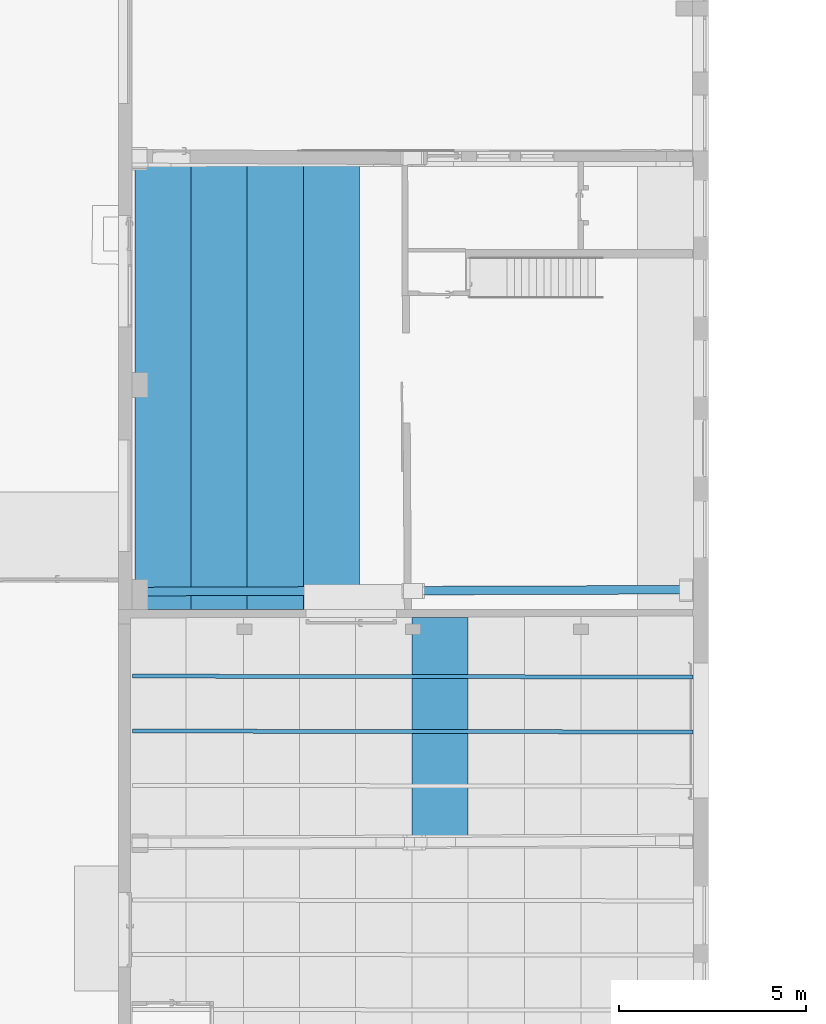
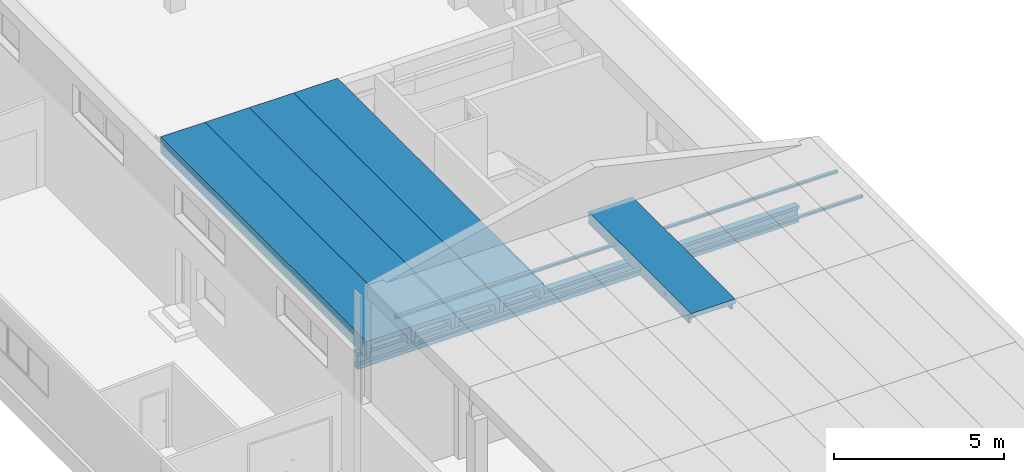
# One storey, part 55 of 301: 8 beams.
"""IFC2X3 building model written with IfcOpenShell, lengths in millimetres."""

from ifc_helpers import new_model, entity, si_unit, converted_unit, derived_unit, money_unit, direction, frame, origin_with_axes, place, context, subcontext, project, spatial, faceted_brep, material, type_object, element, save


model = new_model("IFC2X3")

# Units and contexts
model_context = context("Model", 3, precision=0.01, world=origin_with_axes(), true_north=direction((0.0, 1.0)))
body_context = subcontext(model_context, "Body", "Model", "MODEL_VIEW")
ifc_project = project(units=[si_unit("LENGTHUNIT", "METRE", prefix="MILLI"), si_unit("AREAUNIT", "SQUARE_METRE"), si_unit("VOLUMEUNIT", "CUBIC_METRE"), converted_unit("PLANEANGLEUNIT", "DEGREE", entity("IfcPlaneAngleMeasure", 0.0174532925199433), si_unit("PLANEANGLEUNIT", "RADIAN"), dimensions=[0, 0, 0, 0, 0, 0, 0]), money_unit("EUR"), converted_unit("TIMEUNIT", "Year", entity("IfcTimeMeasure", 31557600.0), si_unit("TIMEUNIT", "SECOND"), dimensions=[0, 0, 1, 0, 0, 0, 0]), si_unit("MASSUNIT", "GRAM", prefix="KILO"), si_unit("THERMODYNAMICTEMPERATUREUNIT", "DEGREE_CELSIUS"), si_unit("LUMINOUSINTENSITYUNIT", "LUMEN"), si_unit("ENERGYUNIT", "JOULE", prefix="MEGA"), derived_unit("THERMALCONDUCTANCEUNIT", [(si_unit("POWERUNIT", "WATT"), 1), (si_unit("LENGTHUNIT", "METRE"), -1), (si_unit("THERMODYNAMICTEMPERATUREUNIT", "KELVIN"), -1)]), derived_unit("SPECIFICHEATCAPACITYUNIT", [(si_unit("ENERGYUNIT", "JOULE"), 1), (si_unit("MASSUNIT", "GRAM", prefix="KILO"), -1), (si_unit("THERMODYNAMICTEMPERATUREUNIT", "KELVIN"), -1)]), derived_unit("MASSDENSITYUNIT", [(si_unit("MASSUNIT", "GRAM", prefix="KILO"), 1), (si_unit("VOLUMEUNIT", "CUBIC_METRE"), -1)])], contexts=[model_context])

# Site, building, storey
site_placement = place(None, frame((0.0, 0.0, 8650.0), z_axis=(0.0, 0.0, 1.0), x_axis=(1.0, 0.0, 0.0)))
site = spatial("IfcSite", under=ifc_project, at=site_placement, Name="43301:001:0844", CompositionType="ELEMENT")
building_placement = place(site_placement, origin_with_axes())
building = spatial("IfcBuilding", under=site, at=building_placement, Name="Kuressaare Ametikooli tuulikute mehaanikute õppekorpus", CompositionType="ELEMENT")
storey_placement = place(building_placement, origin_with_axes())
storey = spatial("IfcBuildingStorey", under=building, at=storey_placement, Name="1.korrus", CompositionType="ELEMENT", Elevation=0.0)

# Beams
ifc_material_1 = material(Name="GENEERILINE - KONSTRUKTRIOON")
beam_type_1 = type_object("IfcBeamType", Name="Precast Double Tee 6 1500 x 575", PredefinedType="NOTDEFINED")
beam_1_placement = place(storey_placement, frame((89081.586835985, 74407.22557386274, 4910.0), z_axis=(0.0, 0.0, 1.0), x_axis=(-1.0, 0.0, 0.0)))
element("IfcBeam", 1, at=beam_1_placement, inside=storey, type_object=beam_type_1, material=ifc_material_1, context=body_context, shape_type="Brep", body=[
    faceted_brep([(-750.0, 0.0, -575.0000000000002), (-750.0, 12088.88165257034, -575.0000000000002), (-640.1488631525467, 12088.88165257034, -575.0000000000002), (-640.1488631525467, 0.0, -575.0000000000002), (-750.0, 0.0, 0.0), (-750.0, 12088.88165257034, 0.0), (750.0, 12088.88165257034, 0.0), (750.0, 12088.88165257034, -575.0000000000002), (633.4880933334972, 12088.88165257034, -575.0000000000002), (586.6738948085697, 12088.88165257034, -220.7859401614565), (574.4732175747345, 12088.88165257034, -198.1213013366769), (557.4586532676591, 12088.88165257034, -178.8068772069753), (536.5135530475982, 12088.88165257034, -163.8454215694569), (512.7253310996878, 12088.88165257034, -154.013693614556), (487.3290089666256, 12088.88165257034, -149.822130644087), (-498.145265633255, 12088.88165257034, -149.8234995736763), (-523.1912441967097, 12088.88165257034, -154.8052653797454), (-546.6267368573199, 12088.88165257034, -164.9490672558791), (-567.4009225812, 12088.88165257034, -179.80006857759), (-584.58231033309, 12088.88165257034, -198.692367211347), (-597.4005060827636, 12088.88165257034, -220.7788538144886), (-597.4005060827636, 0.0, -220.7788538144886), (-584.58231033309, 0.0, -198.692367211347), (-567.4009225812, 0.0, -179.80006857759), (-546.6267368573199, 0.0, -164.9490672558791), (-523.1912441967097, 0.0, -154.8052653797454), (-498.145265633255, 0.0, -149.8234995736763), (487.3290089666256, 0.0, -149.822130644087), (512.7253310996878, 0.0, -154.013693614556), (536.5135530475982, 0.0, -163.8454215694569), (557.4586532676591, 0.0, -178.8068772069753), (574.4732175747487, 0.0, -198.1213013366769), (586.6738948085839, 0.0, -220.7859401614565), (633.4880933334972, 0.0, -575.0000000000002), (750.0, 0.0, -575.0000000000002), (750.0, 0.0, 0.0)], [[[0, 1, 2, 3]], [[4, 5, 1, 0]], [[2, 1, 5, 6, 7, 8, 9, 10, 11, 12, 13, 14, 15, 16, 17, 18, 19, 20]], [[3, 2, 20, 21]], [[4, 0, 3, 21, 22, 23, 24, 25, 26, 27, 28, 29, 30, 31, 32, 33, 34, 35]], [[35, 6, 5, 4]], [[34, 7, 6, 35]], [[33, 8, 7, 34]], [[32, 9, 8, 33]], [[31, 10, 9, 32]], [[30, 11, 10, 31]], [[29, 12, 11, 30]], [[28, 13, 12, 29]], [[27, 14, 13, 28]], [[26, 15, 14, 27]], [[25, 16, 15, 26]], [[24, 17, 16, 25]], [[23, 18, 17, 24]], [[22, 19, 18, 23]], [[21, 20, 19, 22]]]),
])
beam_2_placement = place(storey_placement, frame((90581.586835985, 74407.22557386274, 4910.0), z_axis=(0.0, 0.0, 1.0), x_axis=(-1.0, 0.0, 0.0)))
element("IfcBeam", 2, at=beam_2_placement, inside=storey, type_object=beam_type_1, material=ifc_material_1, context=body_context, shape_type="Brep", body=[
    faceted_brep([(-750.0, 0.0, -575.0000000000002), (-750.0, 12088.88165257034, -575.0000000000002), (-640.1488631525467, 12088.88165257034, -575.0000000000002), (-640.1488631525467, 0.0, -575.0000000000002), (-750.0, 0.0, 0.0), (-750.0, 12088.88165257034, 0.0), (750.0, 12088.88165257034, 0.0), (750.0, 12088.88165257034, -575.0000000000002), (633.4880933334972, 12088.88165257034, -575.0000000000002), (586.6738948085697, 12088.88165257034, -220.7859401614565), (574.4732175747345, 12088.88165257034, -198.1213013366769), (557.4586532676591, 12088.88165257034, -178.8068772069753), (536.5135530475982, 12088.88165257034, -163.8454215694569), (512.7253310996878, 12088.88165257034, -154.013693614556), (487.3290089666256, 12088.88165257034, -149.822130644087), (-498.145265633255, 12088.88165257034, -149.8234995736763), (-523.1912441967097, 12088.88165257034, -154.8052653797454), (-546.6267368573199, 12088.88165257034, -164.9490672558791), (-567.4009225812, 12088.88165257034, -179.80006857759), (-584.58231033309, 12088.88165257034, -198.692367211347), (-597.4005060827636, 12088.88165257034, -220.7788538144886), (-597.4005060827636, 0.0, -220.7788538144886), (-584.58231033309, 0.0, -198.692367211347), (-567.4009225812, 0.0, -179.80006857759), (-546.6267368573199, 0.0, -164.9490672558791), (-523.1912441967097, 0.0, -154.8052653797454), (-498.145265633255, 0.0, -149.8234995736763), (487.3290089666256, 0.0, -149.822130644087), (512.7253310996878, 0.0, -154.013693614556), (536.5135530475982, 0.0, -163.8454215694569), (557.4586532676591, 0.0, -178.8068772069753), (574.4732175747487, 0.0, -198.1213013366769), (586.6738948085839, 0.0, -220.7859401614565), (633.4880933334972, 0.0, -575.0000000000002), (750.0, 0.0, -575.0000000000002), (750.0, 0.0, 0.0)], [[[0, 1, 2, 3]], [[4, 5, 1, 0]], [[2, 1, 5, 6, 7, 8, 9, 10, 11, 12, 13, 14, 15, 16, 17, 18, 19, 20]], [[3, 2, 20, 21]], [[4, 0, 3, 21, 22, 23, 24, 25, 26, 27, 28, 29, 30, 31, 32, 33, 34, 35]], [[35, 6, 5, 4]], [[34, 7, 6, 35]], [[33, 8, 7, 34]], [[32, 9, 8, 33]], [[31, 10, 9, 32]], [[30, 11, 10, 31]], [[29, 12, 11, 30]], [[28, 13, 12, 29]], [[27, 14, 13, 28]], [[26, 15, 14, 27]], [[25, 16, 15, 26]], [[24, 17, 16, 25]], [[23, 18, 17, 24]], [[22, 19, 18, 23]], [[21, 20, 19, 22]]]),
])
beam_3_placement = place(storey_placement, frame((92081.586835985, 74407.22557386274, 4910.0), z_axis=(0.0, 0.0, 1.0), x_axis=(-1.0, 0.0, 0.0)))
element("IfcBeam", 3, at=beam_3_placement, inside=storey, type_object=beam_type_1, material=ifc_material_1, context=body_context, shape_type="Brep", body=[
    faceted_brep([(-750.0, 0.0, -575.0000000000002), (-750.0, 12088.88165257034, -575.0000000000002), (-640.1488631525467, 12088.88165257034, -575.0000000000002), (-640.1488631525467, 0.0, -575.0000000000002), (-750.0, 0.0, 0.0), (-750.0, 12088.88165257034, 0.0), (750.0, 12088.88165257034, 0.0), (750.0, 12088.88165257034, -575.0000000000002), (633.4880933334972, 12088.88165257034, -575.0000000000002), (586.6738948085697, 12088.88165257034, -220.7859401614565), (574.4732175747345, 12088.88165257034, -198.1213013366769), (557.4586532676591, 12088.88165257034, -178.8068772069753), (536.5135530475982, 12088.88165257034, -163.8454215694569), (512.7253310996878, 12088.88165257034, -154.013693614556), (487.3290089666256, 12088.88165257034, -149.822130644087), (-498.145265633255, 12088.88165257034, -149.8234995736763), (-523.1912441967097, 12088.88165257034, -154.8052653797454), (-546.6267368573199, 12088.88165257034, -164.9490672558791), (-567.4009225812, 12088.88165257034, -179.80006857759), (-584.58231033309, 12088.88165257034, -198.692367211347), (-597.4005060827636, 12088.88165257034, -220.7788538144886), (-597.4005060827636, 0.0, -220.7788538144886), (-584.58231033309, 0.0, -198.692367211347), (-567.4009225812, 0.0, -179.80006857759), (-546.6267368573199, 0.0, -164.9490672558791), (-523.1912441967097, 0.0, -154.8052653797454), (-498.145265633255, 0.0, -149.8234995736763), (487.3290089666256, 0.0, -149.822130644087), (512.7253310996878, 0.0, -154.013693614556), (536.5135530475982, 0.0, -163.8454215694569), (557.4586532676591, 0.0, -178.8068772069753), (574.4732175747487, 0.0, -198.1213013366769), (586.6738948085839, 0.0, -220.7859401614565), (633.4880933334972, 0.0, -575.0000000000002), (750.0, 0.0, -575.0000000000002), (750.0, 0.0, 0.0)], [[[0, 1, 2, 3]], [[4, 5, 1, 0]], [[2, 1, 5, 6, 7, 8, 9, 10, 11, 12, 13, 14, 15, 16, 17, 18, 19, 20]], [[3, 2, 20, 21]], [[4, 0, 3, 21, 22, 23, 24, 25, 26, 27, 28, 29, 30, 31, 32, 33, 34, 35]], [[35, 6, 5, 4]], [[34, 7, 6, 35]], [[33, 8, 7, 34]], [[32, 9, 8, 33]], [[31, 10, 9, 32]], [[30, 11, 10, 31]], [[29, 12, 11, 30]], [[28, 13, 12, 29]], [[27, 14, 13, 28]], [[26, 15, 14, 27]], [[25, 16, 15, 26]], [[24, 17, 16, 25]], [[23, 18, 17, 24]], [[22, 19, 18, 23]], [[21, 20, 19, 22]]]),
])
beam_4_placement = place(storey_placement, frame((93581.586835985, 74407.22557386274, 4910.0), z_axis=(0.0, 0.0, 1.0), x_axis=(-1.0, 0.0, 0.0)))
element("IfcBeam", 4, at=beam_4_placement, inside=storey, type_object=beam_type_1, material=ifc_material_1, context=body_context, shape_type="Brep", body=[
    faceted_brep([(-750.0, 0.0, -575.0000000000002), (-750.0, 12088.88165257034, -575.0000000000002), (-640.1488631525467, 12088.88165257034, -575.0000000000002), (-640.1488631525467, 0.0, -575.0000000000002), (-750.0, 0.0, 0.0), (-750.0, 12088.88165257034, 0.0), (750.0, 12088.88165257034, 0.0), (750.0, 12088.88165257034, -575.0000000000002), (633.4880933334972, 12088.88165257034, -575.0000000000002), (586.6738948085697, 12088.88165257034, -220.7859401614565), (574.4732175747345, 12088.88165257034, -198.1213013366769), (557.4586532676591, 12088.88165257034, -178.8068772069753), (536.5135530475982, 12088.88165257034, -163.8454215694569), (512.7253310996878, 12088.88165257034, -154.013693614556), (487.3290089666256, 12088.88165257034, -149.822130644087), (-498.145265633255, 12088.88165257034, -149.8234995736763), (-523.1912441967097, 12088.88165257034, -154.8052653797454), (-546.6267368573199, 12088.88165257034, -164.9490672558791), (-567.4009225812, 12088.88165257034, -179.80006857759), (-584.58231033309, 12088.88165257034, -198.692367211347), (-597.4005060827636, 12088.88165257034, -220.7788538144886), (-597.4005060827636, 0.0, -220.7788538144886), (-584.58231033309, 0.0, -198.692367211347), (-567.4009225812, 0.0, -179.80006857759), (-546.6267368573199, 0.0, -164.9490672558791), (-523.1912441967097, 0.0, -154.8052653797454), (-498.145265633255, 0.0, -149.8234995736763), (487.3290089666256, 0.0, -149.822130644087), (512.7253310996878, 0.0, -154.013693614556), (536.5135530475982, 0.0, -163.8454215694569), (557.4586532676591, 0.0, -178.8068772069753), (574.4732175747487, 0.0, -198.1213013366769), (586.6738948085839, 0.0, -220.7859401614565), (633.4880933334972, 0.0, -575.0000000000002), (750.0, 0.0, -575.0000000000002), (750.0, 0.0, 0.0)], [[[0, 1, 2, 3]], [[4, 5, 1, 0]], [[2, 1, 5, 6, 7, 8, 9, 10, 11, 12, 13, 14, 15, 16, 17, 18, 19, 20]], [[3, 2, 20, 21]], [[4, 0, 3, 21, 22, 23, 24, 25, 26, 27, 28, 29, 30, 31, 32, 33, 34, 35]], [[35, 6, 5, 4]], [[34, 7, 6, 35]], [[33, 8, 7, 34]], [[32, 9, 8, 33]], [[31, 10, 9, 32]], [[30, 11, 10, 31]], [[29, 12, 11, 30]], [[28, 13, 12, 29]], [[27, 14, 13, 28]], [[26, 15, 14, 27]], [[25, 16, 15, 26]], [[24, 17, 16, 25]], [[23, 18, 17, 24]], [[22, 19, 18, 23]], [[21, 20, 19, 22]]]),
])
beam_type_2 = type_object("IfcBeamType", Name="Precast Double Tee 2 1500 x 440", PredefinedType="NOTDEFINED")
beam_5_placement = place(storey_placement, frame((96475.87775377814, 62117.24012458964, 7100.0), z_axis=(0.0, 0.0, 1.0), x_axis=(-1.0, 0.0, 0.0)))
element("IfcBeam", 5, at=beam_5_placement, inside=storey, type_object=beam_type_2, material=ifc_material_1, context=body_context, shape_type="Brep", body=[
    faceted_brep([(750.0, 0.0, -440.0001340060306), (750.0, 5886.324071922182, -440.0001340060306), (750.0, 5886.323549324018, -267.4324731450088), (750.0, 5860.731393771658, -222.3718133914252), (750.0, 5829.058711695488, -181.3563625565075), (750.0, 5818.096092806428, -169.8235046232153), (750.0, 6025.936214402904, -169.8235046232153), (750.0, 6025.936214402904, 0.0), (750.0, 0.0, 0.0), (750.0, 1629.552311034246, -175.3978342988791), (750.0, 1624.9776915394, -184.1936973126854), (750.0, 1604.237705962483, -271.7709778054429), (750.0, 1564.237652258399, -271.7709778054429), (750.0, 1543.496704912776, -184.1935020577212), (750.0, 1538.922065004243, -175.3977593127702), (750.0, 1530.723274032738, -169.8234995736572), (750.0, 1637.75116865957, -169.8234995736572), (750.0, 3092.427864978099, -184.1936973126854), (750.0, 3071.687879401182, -271.7709778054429), (750.0, 3031.687825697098, -271.7709778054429), (750.0, 3010.946878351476, -184.1935020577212), (750.0, 3006.372238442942, -175.3977593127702), (750.0, 2998.173447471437, -169.8234995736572), (750.0, 3105.201342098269, -169.8234995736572), (750.0, 3097.002484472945, -175.3978342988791), (750.0, 4522.478229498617, -271.7709778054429), (750.0, 4482.478175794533, -271.7709778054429), (750.0, 4461.737228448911, -184.1935020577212), (750.0, 4457.162588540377, -175.3977593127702), (750.0, 4448.963797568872, -169.8234995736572), (750.0, 4555.991692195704, -169.8234995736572), (750.0, 4547.79283457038, -175.3978342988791), (750.0, 4543.218215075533, -184.1936973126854), (680.0000000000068, 0.0, -440.0001340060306), (680.0000000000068, 5886.072037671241, -440.0001340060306), (648.6070035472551, 5885.958484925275, -267.4324731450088), (640.409702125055, 5860.336815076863, -222.3718133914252), (621.1429310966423, 5828.594763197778, -181.3563625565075), (638.1842783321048, 5850.882176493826, -210.1386333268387), (631.9095256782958, 5838.036993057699, -193.5336498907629), (586.8200850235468, 5817.50856526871, -169.8235046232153), (620.1516209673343, 5827.525434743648, -180.2351660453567), (604.4404036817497, 5819.615666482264, -171.9734684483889), (586.8200850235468, 6025.936214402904, -169.8235046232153), (-750.0, 6025.936214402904, -169.8235046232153), (-750.0, 6025.936214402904, 0.0), (-584.2531439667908, 6025.936214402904, -169.8235046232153), (-750.0, 0.0, 0.0), (631.9095256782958, 0.0, -193.5336498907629), (638.1842783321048, 0.0, -210.1386333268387), (-750.0, 0.0, -440.0001340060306), (-674.9999969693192, 0.0, -440.0001340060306), (-640.3274701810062, 0.0, -219.6283094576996), (-634.3038197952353, 0.0, -200.1453415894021), (-621.7526411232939, 0.0, -184.072435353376), (-604.310838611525, 0.0, -173.5057932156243), (-584.2531439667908, 0.0, -169.8234995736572), (586.8200850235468, 0.0, -169.8234995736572), (604.4404036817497, 0.0, -171.9734684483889), (620.1516209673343, 0.0, -180.2351660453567), (620.1516209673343, 1627.249251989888, -180.2351660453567), (623.651571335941, 1625.184733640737, -184.1936973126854), (610.952498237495, 1629.780162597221, -175.3978342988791), (638.1842783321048, 1619.016659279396, -210.1386333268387), (649.3962514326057, 1604.402561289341, -271.7709778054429), (631.9095256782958, 1622.959321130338, -193.5336498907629), (649.3962514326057, 1564.402507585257, -271.7709778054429), (638.1842783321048, 1549.82451051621, -210.1386333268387), (631.9095256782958, 1545.902239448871, -193.5336498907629), (623.651398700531, 1543.703747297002, -184.1935020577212), (610.9523556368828, 1539.149916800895, -175.3977593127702), (620.1516209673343, 1541.650763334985, -180.2351660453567), (586.8200850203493, 1530.990670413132, -169.8234995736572), (604.4404036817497, 1534.124036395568, -171.9734684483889), (586.8200850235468, 1638.018565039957, -169.8234995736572), (604.4404036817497, 1634.82746846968, -171.9734684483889), (649.3962514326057, 3071.85273472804, -271.7709778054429), (623.651571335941, 3092.634907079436, -184.1936973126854), (631.9095256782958, 3090.409494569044, -193.5336498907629), (638.1842783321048, 3086.466832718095, -210.1386333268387), (649.3962514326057, 3031.852681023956, -271.7709778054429), (638.1842783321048, 3017.274683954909, -210.1386333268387), (631.9095256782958, 3013.352412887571, -193.5336498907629), (623.651398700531, 3011.153920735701, -184.1935020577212), (620.1516209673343, 3009.100936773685, -180.2351660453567), (610.952355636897, 3006.600090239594, -175.3977593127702), (604.4404036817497, 3001.574209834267, -171.9734684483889), (586.8200850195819, 2998.440843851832, -169.8234995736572), (586.8200850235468, 3105.468738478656, -169.8234995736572), (610.952498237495, 3097.230336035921, -175.3978342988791), (604.4404036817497, 3102.27764190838, -171.9734684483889), (620.1516209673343, 3094.699425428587, -180.2351660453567), (649.3962514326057, 4522.643084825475, -271.7709778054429), (649.3962514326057, 4482.643031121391, -271.7709778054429), (638.1842783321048, 4468.065034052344, -210.1386333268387), (631.9095256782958, 4464.142762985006, -193.5336498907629), (623.651398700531, 4461.944270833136, -184.1935020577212), (620.1516209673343, 4459.89128687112, -180.2351660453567), (610.952355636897, 4457.390440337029, -175.3977593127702), (604.4404036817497, 4452.364559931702, -171.9734684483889), (586.8200850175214, 4449.231193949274, -169.8234995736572), (586.8200850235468, 4556.259088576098, -169.8234995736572), (604.4404036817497, 4553.067992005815, -171.9734684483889), (610.952498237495, 4548.020686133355, -175.3978342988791), (620.1516209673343, 4545.489775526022, -180.2351660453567), (623.651571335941, 4543.425257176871, -184.1936973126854), (631.9095256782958, 4541.199844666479, -193.5336498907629), (638.1842783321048, 4537.257182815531, -210.1386333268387), (-584.2531439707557, 3000.359834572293, -169.8234995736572), (-584.2531439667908, 3107.387729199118, -169.8234995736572), (-584.2531439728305, 4451.150184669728, -169.8234995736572), (-584.2531439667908, 4558.178079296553, -169.8234995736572), (-584.2531439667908, 5813.292128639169, -169.8235046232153), (-584.2531439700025, 1532.909661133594, -169.8234995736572), (-584.2531439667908, 1639.937555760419, -169.8234995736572), (-750.0, 5812.695358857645, -169.8235046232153), (-750.0, 5823.657977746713, -181.3563625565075), (-750.0, 5855.330659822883, -222.3718133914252), (-750.0, 5880.922815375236, -267.4324731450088), (-750.0, 5880.9233379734, -440.0001340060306), (-750.0, 1545.954694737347, -184.1935020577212), (-750.0, 1566.695642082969, -271.7709778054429), (-750.0, 1606.695695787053, -271.7709778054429), (-750.0, 1627.43568136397, -184.1936973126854), (-750.0, 1632.010300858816, -175.3978342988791), (-750.0, 1640.20915848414, -169.8234995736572), (-750.0, 1533.181263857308, -169.8234995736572), (-750.0, 1541.380054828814, -175.3977593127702), (-750.0, 3034.145815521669, -271.7709778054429), (-750.0, 3074.145869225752, -271.7709778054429), (-750.0, 3094.885854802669, -184.1936973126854), (-750.0, 3099.460474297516, -175.3978342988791), (-750.0, 3107.65933192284, -169.8234995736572), (-750.0, 3000.631437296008, -169.8234995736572), (-750.0, 3008.830228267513, -175.3977593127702), (-750.0, 3013.404868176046, -184.1935020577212), (-750.0, 4524.936219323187, -271.7709778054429), (-750.0, 4545.676204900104, -184.1936973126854), (-750.0, 4550.250824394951, -175.3978342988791), (-750.0, 4558.449682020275, -169.8234995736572), (-750.0, 4451.421787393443, -169.8234995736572), (-750.0, 4459.620578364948, -175.3977593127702), (-750.0, 4464.195218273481, -184.1935020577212), (-750.0, 4484.936165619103, -271.7709778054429), (-674.9999969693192, 5881.193374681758, -440.0001340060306), (-640.7591234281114, 5855.723980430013, -222.3718133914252), (-640.3274701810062, 5853.60696400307, -219.6283094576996), (-640.3274701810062, 4537.104890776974, -219.6283094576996), (-648.5314139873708, 4524.769946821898, -271.7709778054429), (-648.5314139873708, 4484.769893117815, -271.7709778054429), (-640.3274701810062, 4472.407517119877, -219.6283094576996), (-640.3274701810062, 3086.314540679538, -219.6283094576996), (-648.5314139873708, 3073.979596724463, -271.7709778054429), (-648.5314139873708, 3033.979543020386, -271.7709778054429), (-640.3274701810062, 3021.617167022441, -219.6283094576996), (-640.3274701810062, 1618.864367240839, -219.6283094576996), (-648.531413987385, 1606.529423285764, -271.7709778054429), (-648.531413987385, 1566.529369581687, -271.7709778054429), (-640.3274701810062, 1554.166993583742, -219.6283094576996), (-647.848808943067, 5881.290609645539, -267.4324731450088), (-634.3038197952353, 1549.542977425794, -200.1453415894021), (-621.7526411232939, 1545.681574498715, -184.072435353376), (-621.847180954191, 1545.744695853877, -184.1935020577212), (-604.310838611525, 1538.358558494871, -173.5057932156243), (-607.4338079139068, 1541.146437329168, -175.3977593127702), (-604.310838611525, 3102.004596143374, -173.5057932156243), (-604.310838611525, 4456.599082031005, -173.5057932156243), (-604.310838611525, 5816.720129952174, -173.5057932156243), (-604.310838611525, 4552.794946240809, -173.5057932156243), (-604.310838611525, 1634.554422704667, -173.5057932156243), (-604.310838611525, 3005.80873193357, -173.5057932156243), (-617.2693620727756, 5824.135872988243, -181.3563625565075), (-621.7526411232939, 5826.217118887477, -184.072435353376), (-634.3038197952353, 5838.583642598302, -200.1453415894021), (-634.3038197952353, 1623.468438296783, -200.1453415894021), (-621.8473334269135, 1627.225682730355, -184.1936973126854), (-621.7526411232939, 1627.28859440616, -184.072435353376), (-607.4339316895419, 1631.776683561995, -175.3978342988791), (-634.3038197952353, 3090.918611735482, -200.1453415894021), (-621.8473334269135, 3094.675856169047, -184.1936973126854), (-621.7526411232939, 3094.738767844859, -184.072435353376), (-607.4339316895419, 3099.226857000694, -175.3978342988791), (-607.4338079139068, 3008.596610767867, -175.3977593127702), (-621.7526411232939, 3013.131747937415, -184.072435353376), (-621.8471809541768, 3013.194869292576, -184.1935020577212), (-634.3038197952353, 3016.993150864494, -200.1453415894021), (-634.3038197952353, 4541.708961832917, -200.1453415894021), (-621.8473334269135, 4545.466206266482, -184.1936973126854), (-621.7526411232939, 4545.529117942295, -184.072435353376), (-607.4339316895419, 4550.017207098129, -175.3978342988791), (-607.4338079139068, 4459.386960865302, -175.3977593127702), (-621.7526411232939, 4463.92209803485, -184.072435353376), (-621.8471809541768, 4463.985219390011, -184.1935020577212), (-634.3038197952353, 4467.783500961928, -200.1453415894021)], [[[0, 1, 2, 3, 4, 5, 6, 7, 8], [9, 10, 11, 12, 13, 14, 15, 16], [17, 18, 19, 20, 21, 22, 23, 24], [25, 26, 27, 28, 29, 30, 31, 32]], [[33, 34, 1, 0]], [[1, 34, 35, 2]], [[2, 35, 36, 3]], [[37, 4, 3, 36, 38, 39]], [[40, 5, 4, 37, 41, 42]], [[5, 40, 43, 6]], [[44, 45, 7, 6, 43, 46]], [[47, 8, 7, 45]], [[48, 49, 33, 0, 8, 47, 50, 51, 52, 53, 54, 55, 56, 57, 58, 59]], [[60, 61, 10, 9, 62]], [[63, 64, 11, 10, 61, 65]], [[64, 66, 12, 11]], [[13, 12, 66, 67, 68, 69]], [[70, 14, 13, 69, 71]], [[72, 15, 14, 70, 73]], [[72, 74, 16, 15]], [[75, 62, 9, 16, 74]], [[76, 18, 17, 77, 78, 79]], [[80, 19, 18, 76]], [[19, 80, 81, 82, 83, 20]], [[21, 20, 83, 84, 85]], [[22, 21, 85, 86, 87]], [[88, 23, 22, 87]], [[89, 24, 23, 88, 90]], [[77, 17, 24, 89, 91]], [[26, 25, 92, 93]], [[93, 94, 95, 96, 27, 26]], [[27, 96, 97, 98, 28]], [[28, 98, 99, 100, 29]], [[30, 29, 100, 101]], [[31, 30, 101, 102, 103]], [[32, 31, 103, 104, 105]], [[25, 32, 105, 106, 107, 92]], [[94, 93, 92, 107, 38, 36, 35, 34, 33, 49, 67, 66, 64, 63, 81, 80, 76, 79]], [[39, 38, 107, 106]], [[39, 106, 105, 104, 41, 37]], [[41, 104, 103, 102, 42]], [[40, 42, 102, 101]], [[108, 109, 110, 111, 112, 46, 43, 40, 101, 100, 88, 87, 74, 72, 57, 56, 113, 114]], [[45, 44, 115, 116, 117, 118, 119, 50, 47], [120, 121, 122, 123, 124, 125, 126, 127], [128, 129, 130, 131, 132, 133, 134, 135], [136, 137, 138, 139, 140, 141, 142, 143]], [[112, 115, 44, 46]], [[68, 67, 49, 48]], [[50, 119, 144, 51]], [[145, 146, 147, 148, 149, 150, 151, 152, 153, 154, 155, 156, 157, 158, 52, 51, 144, 159]], [[158, 160, 53, 52]], [[161, 54, 53, 160, 162]], [[163, 55, 54, 161, 164]], [[163, 113, 56, 55]], [[72, 73, 58, 57]], [[71, 59, 58, 73, 70]], [[68, 48, 59, 71, 69]], [[61, 60, 84, 83, 82, 65]], [[62, 75, 86, 85, 84, 60]], [[81, 63, 65, 82]], [[86, 75, 74, 87]], [[91, 97, 96, 95, 78, 77]], [[79, 78, 95, 94]], [[90, 88, 100, 99]], [[90, 99, 98, 97, 91, 89]], [[132, 109, 108, 133]], [[109, 165, 166, 110]], [[111, 110, 140, 139]], [[167, 112, 111, 168]], [[126, 125, 114, 113]], [[108, 114, 169, 170]], [[116, 115, 112, 167, 171]], [[171, 172, 173, 146, 145, 117, 116]], [[159, 118, 117, 145]], [[144, 119, 118, 159]], [[162, 160, 158, 157, 121, 120]], [[122, 121, 157, 156]], [[156, 155, 174, 175, 123, 122]], [[123, 175, 176, 177, 124]], [[124, 177, 169, 114, 125]], [[126, 113, 163, 164, 127]], [[127, 164, 161, 162, 120]], [[128, 153, 152, 129]], [[151, 178, 179, 130, 129, 152]], [[179, 180, 181, 131, 130]], [[181, 165, 109, 132, 131]], [[108, 170, 182, 134, 133]], [[182, 183, 184, 135, 134]], [[185, 154, 153, 128, 135, 184]], [[186, 187, 137, 136, 148, 147]], [[188, 189, 138, 137, 187]], [[168, 111, 139, 138, 189]], [[166, 190, 141, 140, 110]], [[191, 192, 142, 141, 190]], [[150, 149, 143, 142, 192, 193]], [[149, 148, 136, 143]], [[146, 173, 186, 147]], [[178, 151, 150, 193]], [[185, 174, 155, 154]], [[180, 191, 190, 166, 165, 181]], [[167, 168, 189, 188, 172, 171]], [[177, 176, 183, 182, 170, 169]], [[172, 188, 187, 186, 173]], [[175, 174, 185, 184, 183, 176]], [[178, 193, 192, 191, 180, 179]]]),
])
beam_type_3 = type_object("IfcBeamType", Name="Precast Single Tee 2 107 x 102", PredefinedType="NOTDEFINED")
beam_6_placement = place(storey_placement, frame((88271.97381961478, 59077.7671431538, 6930.176500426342), z_axis=(0.0, 0.0, 1.0), x_axis=(-0.001638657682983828, -0.9999986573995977, 0.0)))
element("IfcBeam", 6, at=beam_6_placement, inside=storey, type_object=beam_type_3, material=ifc_material_1, context=body_context, shape_type="Brep", body=[
    faceted_brep([(45.31502884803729, 0.0, -5.574334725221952), (45.31502884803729, 14968.77585727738, -5.574334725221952), (53.51387546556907, 14968.77585727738, 0.0), (53.51387546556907, 0.0, 0.0), (40.74041549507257, 0.0, -14.37019773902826), (40.74041549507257, 14968.77585727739, -14.37019773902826), (20.00045776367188, 14968.77585727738, -101.9474782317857), (-19.99954223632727, 14968.77585727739, -101.9474782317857), (-40.74046173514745, 14968.77585727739, -14.37000248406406), (-45.31509550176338, 14968.77585727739, -5.574259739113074), (-53.51387546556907, 14968.77585727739, 0.0), (-53.51387546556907, 0.0, 0.0), (-45.31509550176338, 0.0, -5.574259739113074), (-40.74046173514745, 0.0, -14.37000248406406), (-19.99954223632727, 0.0, -101.9474782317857), (20.00045776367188, 0.0, -101.9474782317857)], [[[0, 1, 2, 3]], [[4, 5, 1, 0]], [[2, 1, 5, 6, 7, 8, 9, 10]], [[3, 2, 10, 11]], [[4, 0, 3, 11, 12, 13, 14, 15]], [[15, 6, 5, 4]], [[14, 7, 6, 15]], [[13, 8, 7, 14]], [[12, 9, 8, 13]], [[11, 10, 9, 12]]]),
])
beam_7_placement = place(storey_placement, frame((88271.97381961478, 60545.21731659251, 6930.176500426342), z_axis=(0.0, 0.0, 1.0), x_axis=(-0.001638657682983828, -0.9999986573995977, 0.0)))
element("IfcBeam", 7, at=beam_7_placement, inside=storey, type_object=beam_type_3, material=ifc_material_1, context=body_context, shape_type="Brep", body=[
    faceted_brep([(45.31502884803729, 0.0, -5.574334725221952), (45.31502884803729, 14968.77585727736, -5.574334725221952), (53.51387546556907, 14968.77585727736, 0.0), (53.51387546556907, 0.0, 0.0), (40.74041549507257, 0.0, -14.37019773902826), (40.74041549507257, 14968.77585727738, -14.37019773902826), (20.00045776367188, 14968.77585727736, -101.9474782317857), (-19.99954223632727, 14968.77585727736, -101.9474782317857), (-40.74046173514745, 14968.77585727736, -14.37000248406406), (-45.31509550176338, 14968.77585727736, -5.574259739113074), (-53.51387546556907, 14968.77585727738, 0.0), (-53.51387546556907, 0.0, 0.0), (-45.31509550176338, 0.0, -5.574259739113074), (-40.74046173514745, 0.0, -14.37000248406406), (-19.99954223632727, 0.0, -101.9474782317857), (20.00045776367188, 0.0, -101.9474782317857)], [[[0, 1, 2, 3]], [[4, 5, 1, 0]], [[2, 1, 5, 6, 7, 8, 9, 10]], [[3, 2, 10, 11]], [[4, 0, 3, 11, 12, 13, 14, 15]], [[15, 6, 5, 4]], [[14, 7, 6, 15]], [[13, 8, 7, 14]], [[12, 9, 8, 13]], [[11, 10, 9, 12]]]),
])
ifc_material_2 = material(Name="Betoon - Monteeritav")
beam_type_4 = type_object("IfcBeamType", Name="Precast Girder 01 230 x 600", PredefinedType="NOTDEFINED")
beam_8_placement = place(storey_placement, frame((103227.5122070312, 62853.6265852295, 4305.0), z_axis=(0.0, 0.0, 1.0), x_axis=(-0.003465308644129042, 0.9999939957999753, 0.0)))
element("IfcBeam", 8, at=beam_8_placement, inside=storey, type_object=beam_type_4, material=ifc_material_2, context=body_context, shape_type="Brep", body=[
    faceted_brep([(100.0000000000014, 0.0, -600.0011704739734), (100.0000000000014, 14968.81621373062, -600.0011704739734), (100.0000000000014, 14968.81621373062, -440.0011704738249), (100.0000000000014, 0.0, -440.0011704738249), (-100.0000000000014, 0.0, -600.0011704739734), (-100.0000000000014, 14968.81621373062, -600.0011704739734), (-100.0000000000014, 14968.81621373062, -440.0011704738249), (-44.9999999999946, 14968.8162137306, -403.3345038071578), (-44.9999999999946, 14968.8162137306, -160.0000000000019), (-115.000000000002, 14968.81621373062, -99.99999999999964), (-115.000000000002, 14968.81621373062, 0.0), (115.000000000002, 14968.8162137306, 0.0), (115.000000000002, 14968.8162137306, -99.99999999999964), (45.00000000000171, 14968.8162137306, -160.000000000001), (45.00000000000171, 14968.8162137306, -403.3345038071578), (44.9999999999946, 0.0, -403.3345038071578), (44.9999999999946, 0.0, -160.000000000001), (114.9999999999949, 0.0, -99.99999999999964), (114.9999999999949, 0.0, 0.0), (-115.000000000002, 0.0, 0.0), (-115.000000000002, 0.0, -99.99999999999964), (-45.00000000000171, 0.0, -160.0000000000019), (-45.00000000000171, 0.0, -403.3345038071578), (-100.0000000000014, 0.0, -440.0011704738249)], [[[0, 1, 2, 3]], [[4, 5, 1, 0]], [[2, 1, 5, 6, 7, 8, 9, 10, 11, 12, 13, 14]], [[3, 2, 14, 15]], [[4, 0, 3, 15, 16, 17, 18, 19, 20, 21, 22, 23]], [[23, 6, 5, 4]], [[22, 7, 6, 23]], [[21, 8, 7, 22]], [[20, 9, 8, 21]], [[19, 10, 9, 20]], [[18, 11, 10, 19]], [[17, 12, 11, 18]], [[16, 13, 12, 17]], [[15, 14, 13, 16]]]),
])

save(model, "model.ifc")
